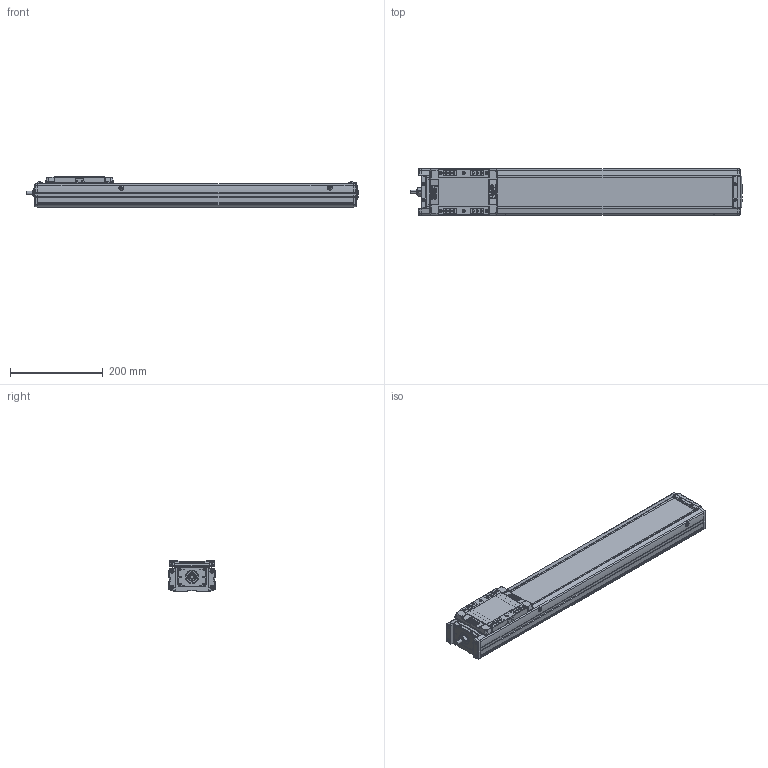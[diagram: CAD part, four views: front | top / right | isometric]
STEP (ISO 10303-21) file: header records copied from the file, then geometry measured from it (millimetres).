
FILE_DESCRIPTION(('STEP AP214'),'1');
FILE_NAME('Z:/Web/3D/SAN100/SAN100 양산용 (STEP)/SAN100ㅁㅁ-500.stp','2013-04-26T01:42:09',(' '),(' '),'Spatial InterOp 3D',' ',' ');
FILE_SCHEMA(('automotive_design'));
Length unit declared in the file: millimetre
Products named in the file (34): SUS COVER; SFX-SAN100; RRCV-SAN100; 스크루 : Round - M4.0 x 10.0; M3.0 x 6.0; 스크루 : Round - M3.0 x 6.0; FRBL-SAN100; SLBL-SAN100; SLCV-SAN100; 스크루 : Countersunk - M3.0 x 6.0; BASE; 스크루 : Round - M5.0 x 6.0; 너트 : Square - M10.0 x 220.7419; RR1500-000L; FRCV-SAN100
Bounding box: 716 x 100 x 66 mm (x, y, z)
Volume: 1924115.3 mm3; surface area: 486135.3 mm2
Topology: 34 solids, 35 shells, 1978 faces, 5158 edges, 3313 vertices
Faces by surface type: plane 971, cylinder 731, cone 194, sphere 44, torus 26, bspline 12
Entity records: 78043 total; most frequent: CARTESIAN_POINT 11929, DIRECTION 10841, ORIENTED_EDGE 10144, EDGE_CURVE 5072, AXIS2_PLACEMENT_3D 3894, VERTEX_POINT 3313, LINE 3053, VECTOR 3053
